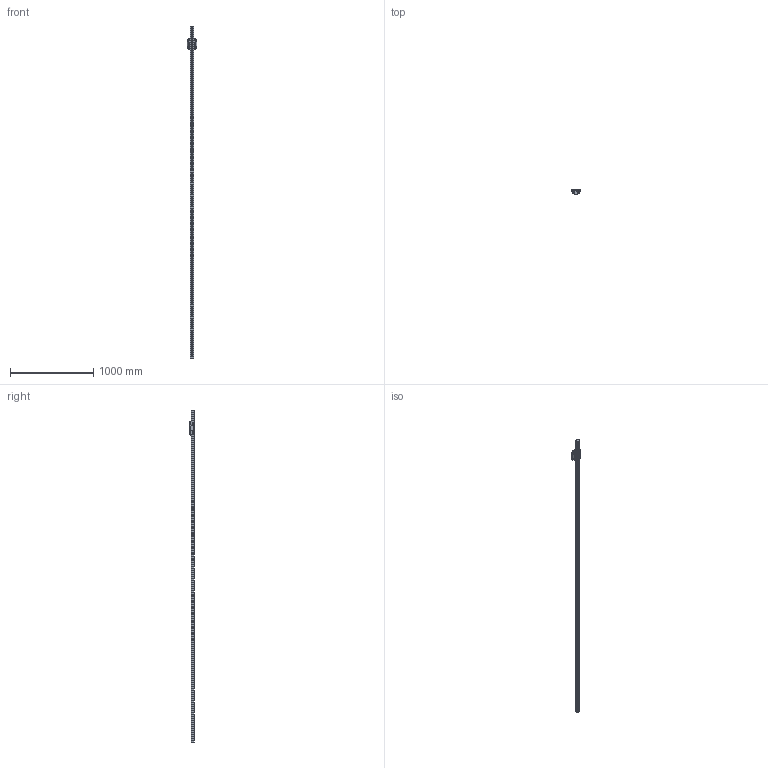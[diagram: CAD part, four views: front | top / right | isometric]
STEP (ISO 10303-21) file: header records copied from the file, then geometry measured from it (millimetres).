
FILE_DESCRIPTION((''),'2;1');
FILE_NAME('BRS45-A0_CUSTOMER_ASM_ASM','2020-11-23T15:08:34',('TWVS2025'),(''),'CREO PARAMETRIC BY PTC INC, 2018420','CREO PARAMETRIC BY PTC INC, 2018420','');
FILE_SCHEMA(('CONFIG_CONTROL_DESIGN'));
Products named in the file (4): BRR45_CUSTOMER_1; BC-BRD45-A0_ASM_1; BRS45-A0_CUSTOMER_ASM_1_ASM; BRS45-A0_CUSTOMER_ASM_ASM
Assembly tree (3 placements, depth 3):
  BRS45-A0_CUSTOMER_ASM_ASM
    BRS45-A0_CUSTOMER_ASM_1_ASM
      BRR45_CUSTOMER_1
      BC-BRD45-A0_ASM_1
Bounding box: 119.95 x 60 x 4000 mm (x, y, z)
Volume: 5868318.8 mm3; surface area: 881771.6 mm2
Topology: 1 solids, 76 shells, 1752 faces, 5016 edges, 3216 vertices
Faces by surface type: plane 744, cylinder 550, sphere 192, bspline 112, cone 96, torus 54, extrusion 4
Entity records: 81678 total; most frequent: CARTESIAN_POINT 37434, ORIENTED_EDGE 9461, DIRECTION 8890, EDGE_CURVE 4748, AXIS2_PLACEMENT_3D 3269, VERTEX_POINT 3216, VECTOR 2352, LINE 2348
